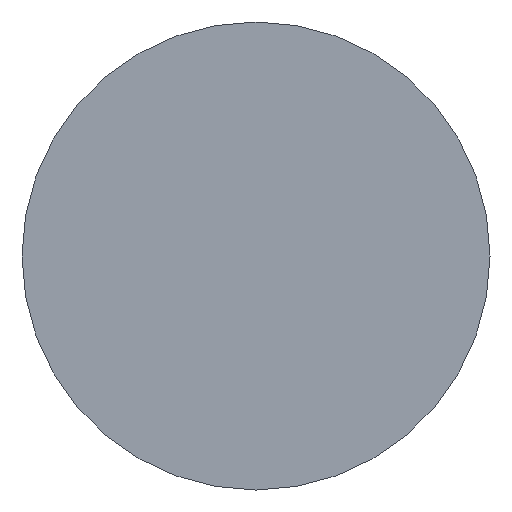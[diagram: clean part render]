
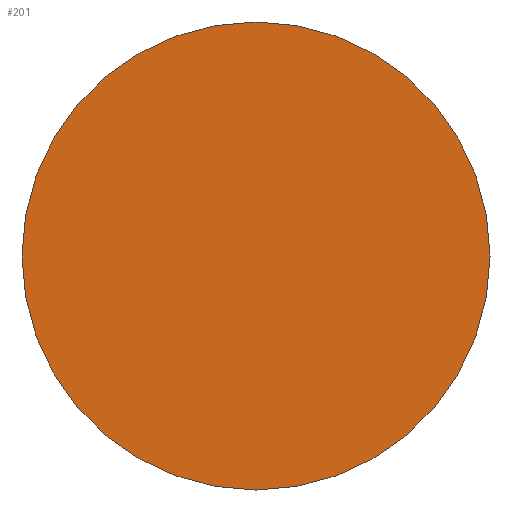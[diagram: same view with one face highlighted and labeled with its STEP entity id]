
A CAD part, left-side view. The second image highlights one B-rep face of the part: STEP entity #201.
In plain terms, the highlighted planar face has unit normal (-1, 0, 0).
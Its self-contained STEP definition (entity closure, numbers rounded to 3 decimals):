
#22 = CARTESIAN_POINT ( 'NONE',  ( 0., 0., -20. ) ) ;
#139 = VERTEX_POINT ( 'NONE', #260 ) ;
#146 = ORIENTED_EDGE ( 'NONE', *, *, #193, .T. ) ;
#165 = EDGE_LOOP ( 'NONE', ( #146, #200 ) ) ;
#187 = EDGE_CURVE ( 'NONE', #276, #139, #261, .T. ) ;
#193 = EDGE_CURVE ( 'NONE', #139, #276, #294, .T. ) ;
#200 = ORIENTED_EDGE ( 'NONE', *, *, #187, .T. ) ;
#201 = ADVANCED_FACE ( 'NONE', ( #319 ), #320, .F. ) ;
#260 = CARTESIAN_POINT ( 'NONE',  ( 0., 0., 20. ) ) ;
#261 = CIRCLE ( 'NONE', #262, 20. ) ;
#262 = AXIS2_PLACEMENT_3D ( 'NONE', #263, #264, #265 ) ;
#263 = CARTESIAN_POINT ( 'NONE',  ( 0., 0., 0. ) ) ;
#264 = DIRECTION ( 'NONE',  ( -1., 0., 0. ) ) ;
#265 = DIRECTION ( 'NONE',  ( 0., 0., 1. ) ) ;
#276 = VERTEX_POINT ( 'NONE', #22 ) ;
#294 = CIRCLE ( 'NONE', #295, 20. ) ;
#295 = AXIS2_PLACEMENT_3D ( 'NONE', #296, #297, #298 ) ;
#296 = CARTESIAN_POINT ( 'NONE',  ( 0., 0., 0. ) ) ;
#297 = DIRECTION ( 'NONE',  ( -1., 0., 0. ) ) ;
#298 = DIRECTION ( 'NONE',  ( 0., 0., 1. ) ) ;
#319 = FACE_OUTER_BOUND ( 'NONE', #165, .T. ) ;
#320 = PLANE ( 'NONE',  #321 ) ;
#321 = AXIS2_PLACEMENT_3D ( 'NONE', #322, #323, #324 ) ;
#322 = CARTESIAN_POINT ( 'NONE',  ( 0., 0., 0. ) ) ;
#323 = DIRECTION ( 'NONE',  ( 1., 0., 0. ) ) ;
#324 = DIRECTION ( 'NONE',  ( 0., 0., -1. ) ) ;
